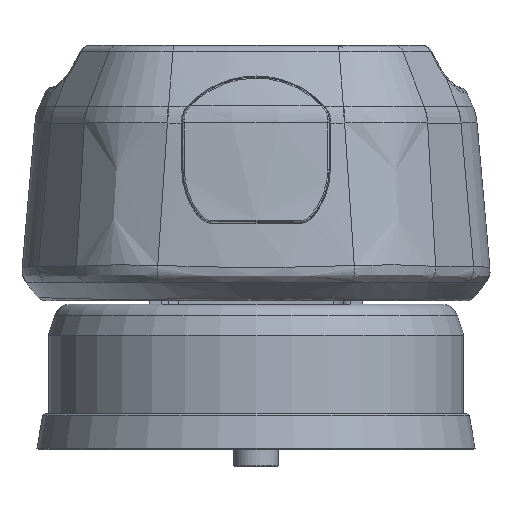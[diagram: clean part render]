
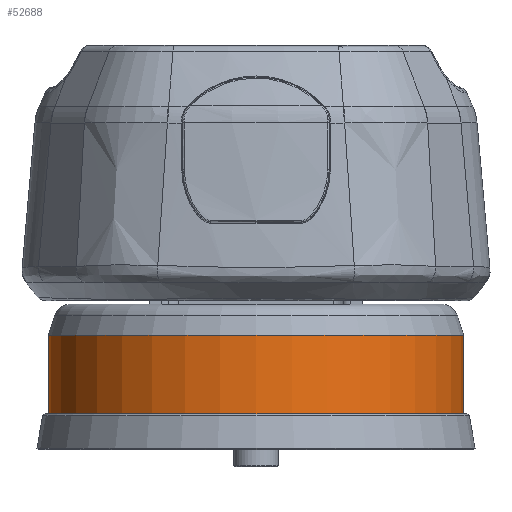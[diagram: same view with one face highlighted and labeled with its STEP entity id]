
A CAD part, front view. The second image highlights one B-rep face of the part: STEP entity #52688.
In plain terms, the highlighted cylindrical face has radius 60.25 mm (diameter 120.5 mm), a partial arc.
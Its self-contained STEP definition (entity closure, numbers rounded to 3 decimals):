
#2530 = LINE ( 'NONE', #94629, #17869 ) ;
#4449 = ORIENTED_EDGE ( 'NONE', *, *, #84814, .T. ) ;
#4583 = AXIS2_PLACEMENT_3D ( 'NONE', #99071, #7979, #84408 ) ;
#7979 = DIRECTION ( 'NONE',  ( 0., 0., 1. ) ) ;
#8003 = CARTESIAN_POINT ( 'NONE',  ( -60.25, 3., 0.15 ) ) ;
#8728 = VERTEX_POINT ( 'NONE', #70842 ) ;
#10820 = DIRECTION ( 'NONE',  ( 1., 0., 0. ) ) ;
#11637 = ORIENTED_EDGE ( 'NONE', *, *, #84690, .F. ) ;
#17869 = VECTOR ( 'NONE', #68674, 1000. ) ;
#26575 = VECTOR ( 'NONE', #30514, 1000. ) ;
#30514 = DIRECTION ( 'NONE',  ( 0., 0., 1. ) ) ;
#32286 = CIRCLE ( 'NONE', #79013, 60.25 ) ;
#35245 = DIRECTION ( 'NONE',  ( 0., 0., 1. ) ) ;
#40719 = CARTESIAN_POINT ( 'NONE',  ( 0., 3., -14.85 ) ) ;
#42793 = CIRCLE ( 'NONE', #4583, 60.25 ) ;
#45352 = CARTESIAN_POINT ( 'NONE',  ( 60.25, 3., 22.95 ) ) ;
#49388 = DIRECTION ( 'NONE',  ( 1., 0., 0. ) ) ;
#52688 = ADVANCED_FACE ( 'NONE', ( #106255 ), #81892, .T. ) ;
#52987 = VERTEX_POINT ( 'NONE', #76814 ) ;
#56926 = EDGE_CURVE ( 'NONE', #8728, #69086, #42793, .T. ) ;
#60203 = CARTESIAN_POINT ( 'NONE',  ( 0., 3., 0.15 ) ) ;
#62541 = CARTESIAN_POINT ( 'NONE',  ( 60.25, 3., -14.85 ) ) ;
#66671 = DIRECTION ( 'NONE',  ( 0., 0., 1. ) ) ;
#68488 = ORIENTED_EDGE ( 'NONE', *, *, #89939, .T. ) ;
#68674 = DIRECTION ( 'NONE',  ( 0., 0., 1. ) ) ;
#69086 = VERTEX_POINT ( 'NONE', #45352 ) ;
#70842 = CARTESIAN_POINT ( 'NONE',  ( -60.25, 3., 22.95 ) ) ;
#71704 = LINE ( 'NONE', #62541, #26575 ) ;
#76814 = CARTESIAN_POINT ( 'NONE',  ( 60.25, 3., 0.15 ) ) ;
#79013 = AXIS2_PLACEMENT_3D ( 'NONE', #60203, #35245, #10820 ) ;
#79978 = EDGE_LOOP ( 'NONE', ( #11637, #68488, #4449, #90748 ) ) ;
#81892 = CYLINDRICAL_SURFACE ( 'NONE', #87028, 60.25 ) ;
#84408 = DIRECTION ( 'NONE',  ( 1., 0., 0. ) ) ;
#84690 = EDGE_CURVE ( 'NONE', #89382, #8728, #2530, .T. ) ;
#84814 = EDGE_CURVE ( 'NONE', #52987, #69086, #71704, .T. ) ;
#87028 = AXIS2_PLACEMENT_3D ( 'NONE', #40719, #66671, #49388 ) ;
#89382 = VERTEX_POINT ( 'NONE', #8003 ) ;
#89939 = EDGE_CURVE ( 'NONE', #89382, #52987, #32286, .T. ) ;
#90748 = ORIENTED_EDGE ( 'NONE', *, *, #56926, .F. ) ;
#94629 = CARTESIAN_POINT ( 'NONE',  ( -60.25, 3., -14.85 ) ) ;
#99071 = CARTESIAN_POINT ( 'NONE',  ( 0., 3., 22.95 ) ) ;
#106255 = FACE_OUTER_BOUND ( 'NONE', #79978, .T. ) ;
